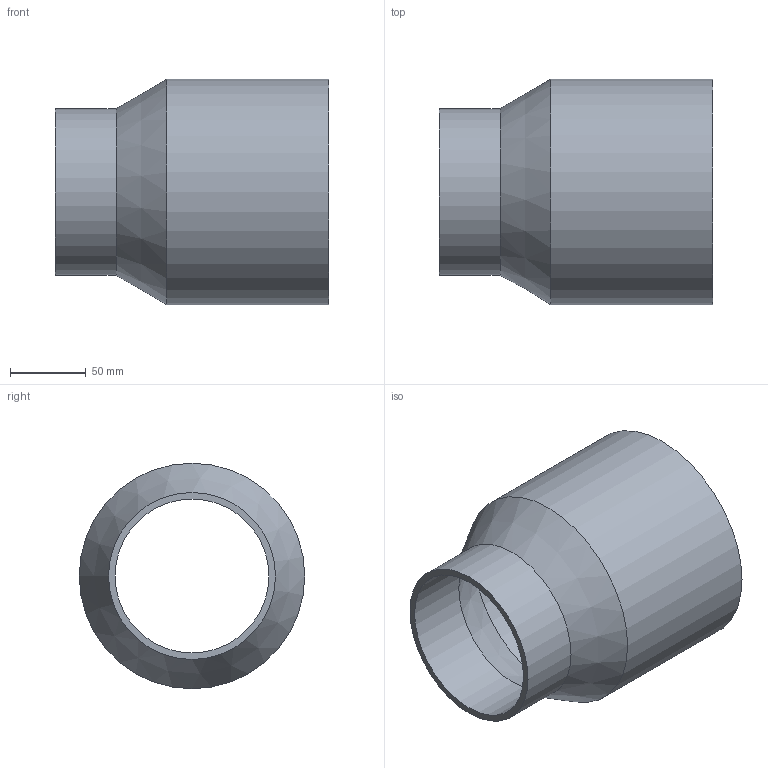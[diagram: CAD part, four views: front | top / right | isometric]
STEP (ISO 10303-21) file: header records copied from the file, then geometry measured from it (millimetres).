
FILE_DESCRIPTION(/* description */ (''),/* implementation_level */ '2;1');
FILE_NAME(/* name */ 'Z:\Geberit\Export\NewStep\367550.stp',/* time_stamp */ '2014-04-02T07:57:22+02:00',/* author */ ('nelson'),/* organization */ (''),/* preprocessor_version */ 'ST-DEVELOPER v15.2',/* originating_system */ 'Autodesk Inventor 2014',/* authorisation */ '');
FILE_SCHEMA (('AUTOMOTIVE_DESIGN { 1 0 10303 214 3 1 1 }'));
Length unit declared in the file: millimetre
Products named in the file (1): 367550
Bounding box: 180 x 148.6 x 148.6 mm (x, y, z)
Volume: 329737.7 mm3; surface area: 156743.6 mm2
Topology: 1 solids, 1 shells, 8 faces, 14 edges, 8 vertices
Faces by surface type: cylinder 4, cone 2, plane 2
Full cylindrical faces by diameter (mm): 101.4 x1, 110 x1, 140 x1, 148.6 x1
Entity records: 189 total; most frequent: DIRECTION 34, CARTESIAN_POINT 25, AXIS2_PLACEMENT_3D 17, EDGE_LOOP 16, ORIENTED_EDGE 16, FACE_BOUND 9, CIRCLE 8, VERTEX_POINT 8
